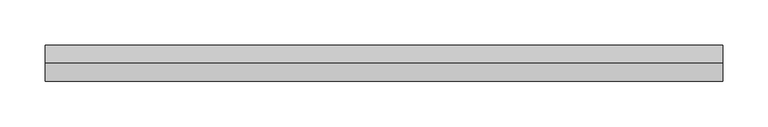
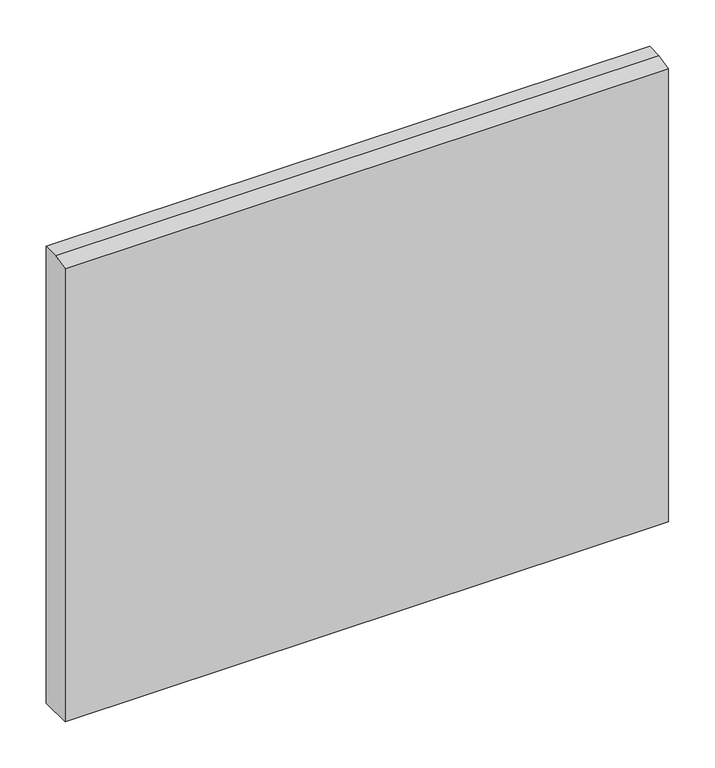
"""IFC4 building model written with IfcOpenShell, lengths in millimetres: proxy geometry, 400_35_NS_gevelplint : 40 mm dik."""

from ifc_helpers import new_model, si_unit, frame, origin, place, context, project, spatial, polyline, outline, extrude, source, transform, mapped, element, save


def generic_models_bb41b8d3(model_context):
    return source(origin(), model_context, "Body", "SweptSolid", [
        extrude(outline(polyline([(40.0, 0.0), (0.0, 0.0), (0.0, 595.0), (20.0, 600.0), (40.0, 600.0), (40.0, 0.0)])), frame((-375.0, 0.0, 0.0), z_axis=(1.0, 0.0, 0.0), x_axis=(0.0, 1.0, 0.0)), (0.0, 0.0, 1.0), 750.0),
    ])


if __name__ == "__main__":
    model = new_model("IFC4")
    model_context = context("Model", 3, world=origin())
    ifc_project = project(units=[si_unit("LENGTHUNIT", "METRE", prefix="MILLI")], contexts=[model_context])
    site = spatial("IfcSite", under=ifc_project)
    building = spatial("IfcBuilding", under=site)
    placement = place(None, origin())
    generic_models_shape = generic_models_bb41b8d3(model_context)
    element("IfcBuildingElementProxy", 1, Name="400_35_NS_gevelplint : 40 mm dik", ObjectType="400_35_NS_gevelplint : 40 mm dik", at=placement, inside=building, context=model_context, shape_type="MappedRepresentation", body=[
        mapped(generic_models_shape, transform((0.0, 0.0, 0.0), x_axis=(1.0, 0.0, 0.0), y_axis=(0.0, 1.0, 0.0), z_axis=(0.0, 0.0, 1.0))),
    ])
    save(model, "model.ifc")
